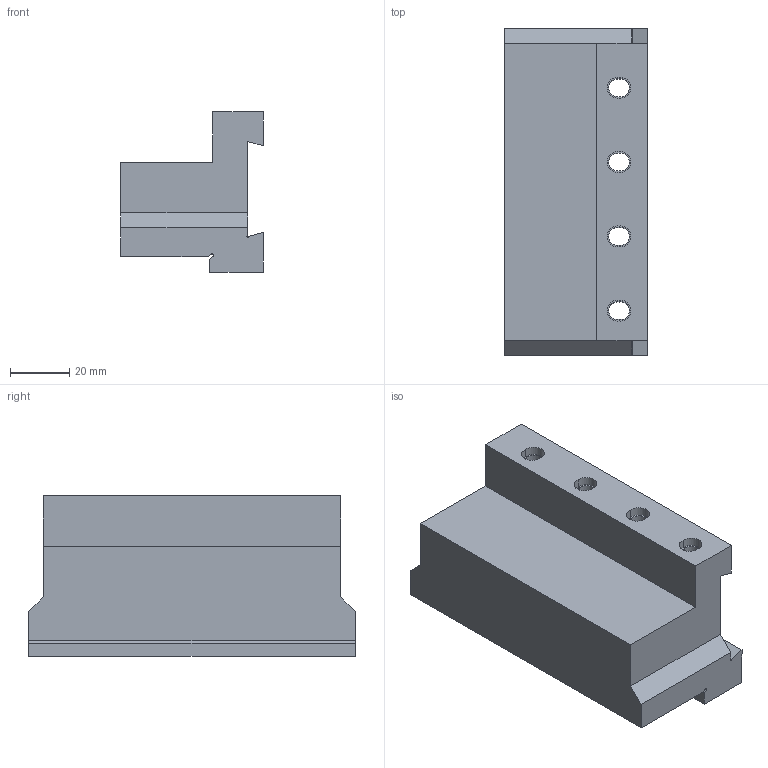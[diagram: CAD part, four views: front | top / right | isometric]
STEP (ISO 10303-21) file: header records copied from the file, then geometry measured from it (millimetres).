
FILE_DESCRIPTION(/* description */ (''),/* implementation_level */ '2;1');
FILE_NAME(/* name */ 'C:/Users/bsingh/Desktop/LATHE INSERT TEST/PART OFF/CUT OFF INGEST 2022/01-0152_3D Model v2.step',/* time_stamp */ '2022-09-26T08:37:08-07:00',/* author */ (''),/* organization */ (''),/* preprocessor_version */ 'ST-DEVELOPER v19',/* originating_system */ 'Autodesk Translation Framework v11.7.0.108',/* authorisation */ '');
FILE_SCHEMA (('AUTOMOTIVE_DESIGN { 1 0 10303 214 3 1 1 }'));
Length unit declared in the file: millimetre
Products named in the file (1): 01-0152_3D Model
Bounding box: 48 x 110 x 54 mm (x, y, z)
Volume: 173402.4 mm3; surface area: 31005.3 mm2
Topology: 1 solids, 1 shells, 42 faces, 108 edges, 72 vertices
Faces by surface type: plane 24, cylinder 18
Entity records: 1337 total; most frequent: DIRECTION 230, CARTESIAN_POINT 223, ORIENTED_EDGE 216, EDGE_CURVE 108, AXIS2_PLACEMENT_3D 79, LINE 72, VECTOR 72, VERTEX_POINT 72
